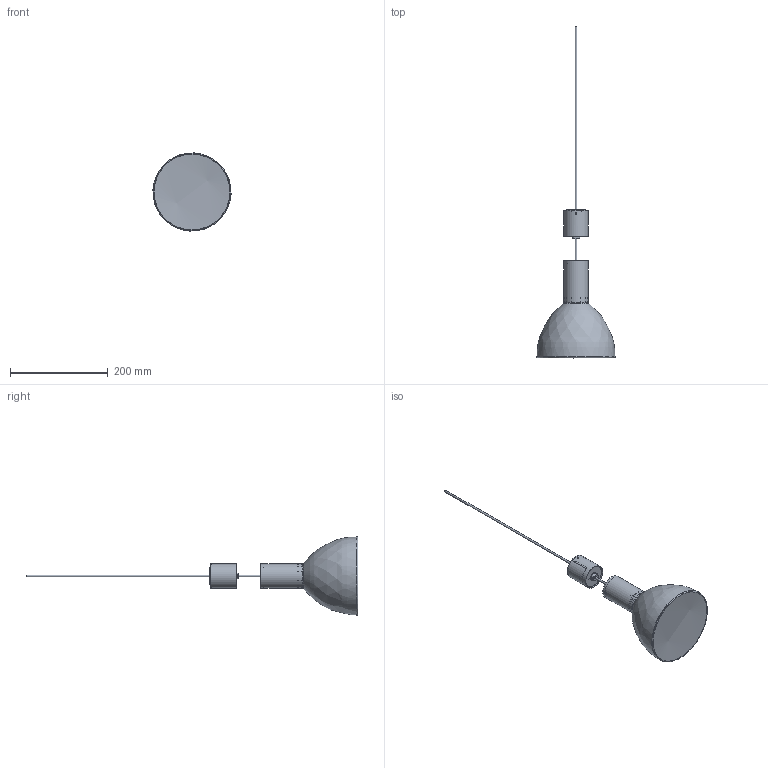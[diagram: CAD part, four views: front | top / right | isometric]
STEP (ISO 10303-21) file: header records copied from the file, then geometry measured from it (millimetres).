
FILE_DESCRIPTION(/* description */ (''),/* implementation_level */ '2;1');
FILE_NAME(/* name */ 'S:\UFFICIO TECNICO 2019\PRODOTTI ROTALIANA\SOUVLAKI\CONFIGURATORE\FILES X CONFIGURATORE\ipt INVENTOR\1SVH3001.stp',/* time_stamp */ '2024-03-13T18:01:38+01:00',/* author */ ('mtesta'),/* organization */ (''),/* preprocessor_version */ 'ST-DEVELOPER v18.1',/* originating_system */ 'Autodesk Inventor 2021',/* authorisation */ '');
FILE_SCHEMA (('AUTOMOTIVE_DESIGN { 1 0 10303 214 3 1 1 }'));
Length unit declared in the file: millimetre
Products named in the file (1): 1SVH3001
Bounding box: 159.73 x 679.03 x 159.73 mm (x, y, z)
Volume: 202167.9 mm3; surface area: 221025.6 mm2
Topology: 12 solids, 12 shells, 965 faces, 2452 edges, 1533 vertices
Faces by surface type: cylinder 302, plane 230, torus 211, bspline 124, cone 86, sphere 12
Full cylindrical faces by diameter (mm): 1.567 x3, 2.013 x2, 2.459 x8, 3 x27, 3.2 x2, 3.242 x2, 3.25 x2, 3.5 x2, 4 x7, 4.2 x2, 6 x4, 6.5 x2, 7 x2, 8 x1, 10.5 x1, 12 x1, 16.9 x1, 18 x1, 39 x1, 40 x1, 42 x2, 46 x1, 46.5 x1, 47.5 x1, 48 x2, 48.2 x2, 50 x2
Entity records: 34483 total; most frequent: CARTESIAN_POINT 9845, DIRECTION 5173, ORIENTED_EDGE 4864, EDGE_CURVE 2432, AXIS2_PLACEMENT_3D 2213, VERTEX_POINT 1535, CIRCLE 1371, EDGE_LOOP 1105
